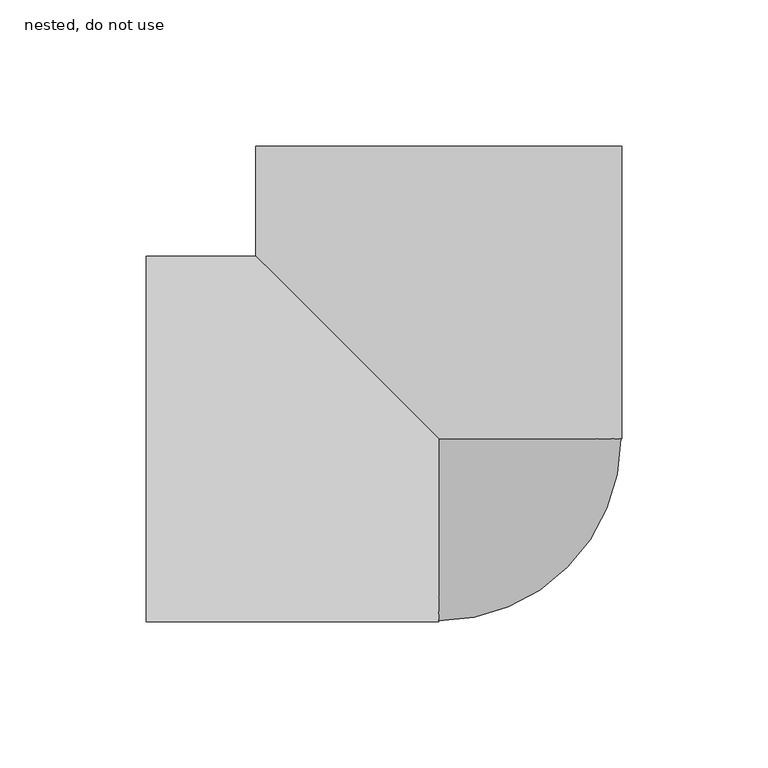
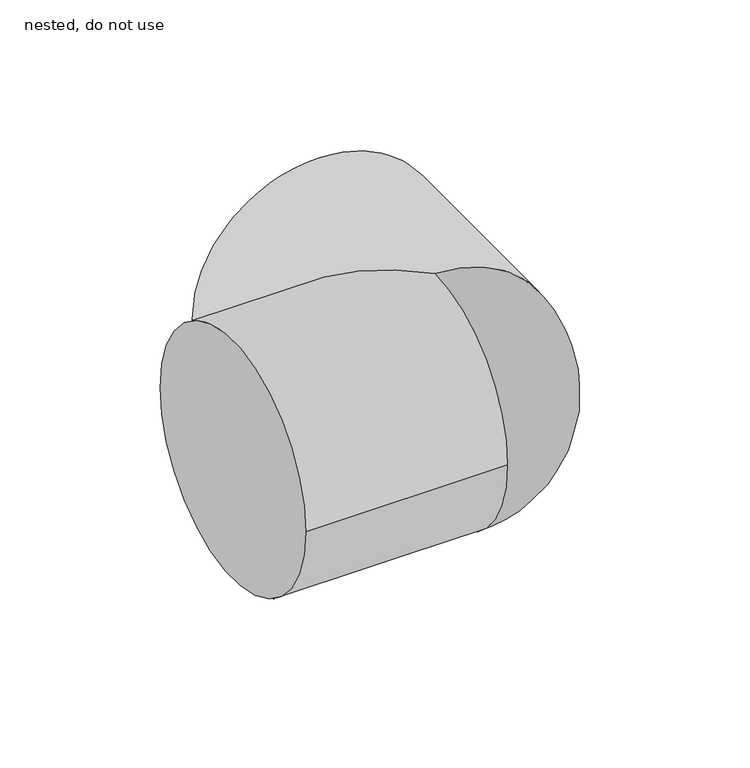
"""IFC4 building model written with IfcOpenShell, lengths in millimetres: pipe fitting geometry, ZZZ_do no use_PIF_HDPE elbow for bend assembly -SH_Akatherm : nested, do not use."""

from ifc_helpers import new_model, si_unit, point, frame, origin, place, context, project, spatial, circle_curve, ellipse_curve, trimmed, source, transform, mapped, element, save
from ifc_brep_helpers import plane_surface, cylinder_surface, revolved_surface, advanced_brep


def nested_do_not_use_365d6919(model_context):
    return source(origin(), model_context, "Body", "AdvancedBrep", [
        advanced_brep(
        [(-100.0, -62.5, 0.0), (-100.0, 62.5, 0.0), (-62.5, 62.5, 0.0), (0.0, 0.0, -62.5), (0.0, -62.5, 0.0), (0.0, 0.0, 62.5), (62.5, 100.0, 0.0), (-62.5, 100.0, 0.0), (62.5, 0.0, 0.0)],
        [
            (0, 1, circle_curve(frame((-100.0, 0.0, 0.0), z_axis=(-1.0, 0.0, 0.0), x_axis=(0.0, 1.0, 0.0)), 62.5)),
            (1, 0, circle_curve(frame((-100.0, 0.0, 0.0), z_axis=(-1.0, 0.0, 0.0), x_axis=(0.0, 1.0, 0.0)), 62.5)),
            (1, 2),
            (2, 3, ellipse_curve(frame((0.0, 0.0, 0.0), z_axis=(-0.7071067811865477, -0.7071067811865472, 0.0), x_axis=(0.7071067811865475, -0.7071067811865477, 0.0)), 88.3883476, 62.5)),
            (3, 4, circle_curve(frame((0.0, 0.0, 0.0), z_axis=(-1.0, 0.0, 0.0), x_axis=(0.0, 1.0, 0.0)), 62.5)),
            (4, 0),
            (4, 5, circle_curve(frame((0.0, 0.0, 0.0), z_axis=(-1.0, 0.0, 0.0), x_axis=(0.0, 1.0, 0.0)), 62.5)),
            (5, 2, ellipse_curve(frame((0.0, 0.0, 0.0), z_axis=(-0.7071067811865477, -0.7071067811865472, 0.0), x_axis=(0.7071067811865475, -0.7071067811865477, 0.0)), 88.3883476, 62.5)),
            (6, 7, circle_curve(frame((0.0, 100.0, 0.0), z_axis=(0.0, 1.0, 0.0), x_axis=(-1.0, 0.0, 0.0)), 62.5)),
            (7, 6, circle_curve(frame((0.0, 100.0, 0.0), z_axis=(0.0, 1.0, 0.0), x_axis=(-1.0, 0.0, 0.0)), 62.5)),
            (7, 2),
            (5, 8, circle_curve(frame((0.0, 0.0, 0.0), z_axis=(0.0, 1.0, 0.0), x_axis=(-1.0, 0.0, 0.0)), 62.5)),
            (8, 6),
            (8, 3, circle_curve(frame((0.0, 0.0, 0.0), z_axis=(0.0, 1.0, 0.0), x_axis=(-1.0, 0.0, 0.0)), 62.5)),
        ],
        [
            plane_surface(frame((-100.0, 62.5, 0.0), z_axis=(-1.0, 0.0, 0.0), x_axis=(0.0, 0.0, -1.0))),
            cylinder_surface(frame((-100.0, 0.0, 0.0), z_axis=(1.0, 0.0, 0.0), x_axis=(0.0, 1.0, 0.0)), 62.5),
            plane_surface(frame((0.0, 100.0, 0.0), z_axis=(0.0, 1.0, 0.0), x_axis=(0.0, 0.0, 1.0))),
            cylinder_surface(frame((0.0, 0.0, 0.0), z_axis=(0.0, -1.0, 0.0), x_axis=(-1.0, 0.0, 0.0)), 62.5),
            revolved_surface(trimmed(ellipse_curve(frame((0.0, 0.0, 0.0), z_axis=(-1.0, 0.0, 0.0), x_axis=(0.0, 1.0, 0.0)), 62.5, 62.5), [point((0.0, 0.0, -62.5))], [point((0.0, 0.0, 62.5))], True, "CARTESIAN"), (0.0, 0.0, 142.5), (0.0, 0.0, 1.0)),
        ],
        [
            (0, [[1, 2]]),
            (1, [[-2, 3, 4, 5, 6]]),
            (1, [[-1, -6, 7, 8, -3]]),
            (2, [[9, 10]]),
            (3, [[-10, 11, -8, 12, 13]]),
            (3, [[-9, -13, 14, -4, -11]]),
            (4, [[-12, -7, -5, -14]]),
        ],
    ),
    ])


if __name__ == "__main__":
    model = new_model("IFC4")
    model_context = context("Model", 3, world=origin())
    ifc_project = project(units=[si_unit("LENGTHUNIT", "METRE", prefix="MILLI")], contexts=[model_context])
    site = spatial("IfcSite", under=ifc_project)
    building = spatial("IfcBuilding", under=site)
    placement = place(None, origin())
    nested_do_not_use_shape = nested_do_not_use_365d6919(model_context)
    element("IfcPipeFitting", 1, ObjectType="ZZZ_do no use_PIF_HDPE elbow for bend assembly -SH_Akatherm : nested, do not use", at=placement, inside=building, context=model_context, shape_type="MappedRepresentation", body=[
        mapped(nested_do_not_use_shape, transform((0.0, 0.0, 0.0), x_axis=(1.0, 0.0, 0.0), y_axis=(0.0, 1.0, 0.0), z_axis=(0.0, 0.0, 1.0))),
    ])
    save(model, "model.ifc")
